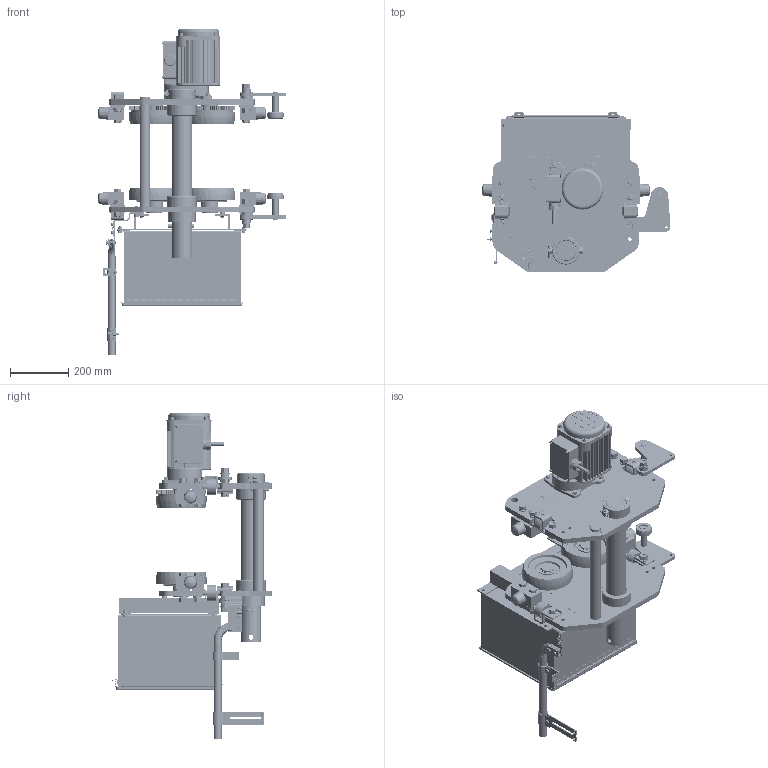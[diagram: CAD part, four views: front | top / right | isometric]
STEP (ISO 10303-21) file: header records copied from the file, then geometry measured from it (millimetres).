
FILE_DESCRIPTION (( 'STEP AP214' ), '1' );
FILE_NAME ('MR2080LD.STEP', '2026-08-06T14:12:45', ( '' ), ( '' ), 'SwSTEP 2.0', 'SolidWorks 2026', '' );
FILE_SCHEMA (( 'AUTOMOTIVE_DESIGN' ));
Length unit declared in the file: inch
Products named in the file (92): M6SE075S9404; MR1FS9631; J1BG11002828_J1BG11002828; E6F151003; MS104075; MS161100; MR1GS9324; M6SE100S9114; M6SE075S1405; MS554010; MR1DS9501; J1SS000-00015_J1SS000-00015; 9004703_9004703; MR1GS9325; M6SE100S9181; M6SE100S9101; M6SE075S1401; 9009436_9009436; MR1DS9492; MR2080LD; MR1IS9634; T6GA0109104; MR1DS9491; M6SE075S9402; 9009435_9009435; MR1DS1301; MR1IS5202; MR1DS9493; 70135-07; ECP5924AB1; MS1401075; E3S018075; hex nut style 1_am_9093439; 70135-08; 6077802; M6SE075S9408; ECP5924AA1; E6L614010S; 9006732; hex cap screw_am_9093328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
Assembly tree (208 placements, depth 4):
  MR2080LD
    MR1IS5201
      MR1IS9201
      MR1IS9203  x2
      M6SE100S9113
    MR1IS5202
      MR1IS9202
      MR1IS9203  x2
      M6SE100S9114
    MR1GS1211_Reversed  x2
      MR1GS1211 BODY
      MR1GS1211 ATTACHMENT
    MR1GS1211  x2
      MR1GS1211 BODY
      MR1GS1211 ATTACHMENT
    spring lock washer_2_jis_9012715  x10
    hex cap screw_am_90933116  x2
    hex nut style 1_am_9093439  x10
    MS104075  x4
    MS1101075  x2
      M6SE100S9101
      6309Z Bearing
      J1SR000-00100_9047145
    MS1102075  x2
      M6SE100S9102
      6309Z Bearing
      J1SR000-00100_9047145
    9047145_9047145  x4
    J1BG11002828_J1BG11002828  x2
    MR1DS1491
      MR1DS9491
      MR1DS9492
      MR1DS9501
      MR1DS1493
        MR1DS9493
        single coil rectangular section spring washer_bsi_9012711
        M6F554010  x2
        MR1DS9496
        hex nut style 1_am_9093424
        hex cap screw_am_9093329
      MR1DS1481
        MR1DS9481
        E6L614010S
        E6F151003  x2
      hex cap screw_am_9093329  x2
      hex nut style 1_am_9093424
      hex cap screw_am_9093328
    6077802
      MR1GS9311
      MR1GS9324
      MR1GS9325
      MS554010  x4
      MR1DS1301
      90912134_90912134  x4
    9012513  x4
    single coil rectangular section spring washer_bsi_9012711  x12
    hex cap screw_am_9093328  x4
    MR1IS9634  x4
    MS006050  x4
    MR1FS9631  x4
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Bounding box: 651.09 x 550.21 x 1125.37 mm (x, y, z)
Volume: 22396743.2 mm3; surface area: 4826016.3 mm2
Topology: 231 solids, 255 shells, 8914 faces, 22611 edges, 14569 vertices
Faces by surface type: plane 4181, cylinder 2185, bspline 1365, cone 876, torus 291, sphere 16
Entity records: 247463 total; most frequent: CARTESIAN_POINT 108564, ORIENTED_EDGE 24814, DIRECTION 20893, EDGE_CURVE 12411, VERTEX_POINT 8035, AXIS2_PLACEMENT_3D 7466, VECTOR 5961, LINE 5961
